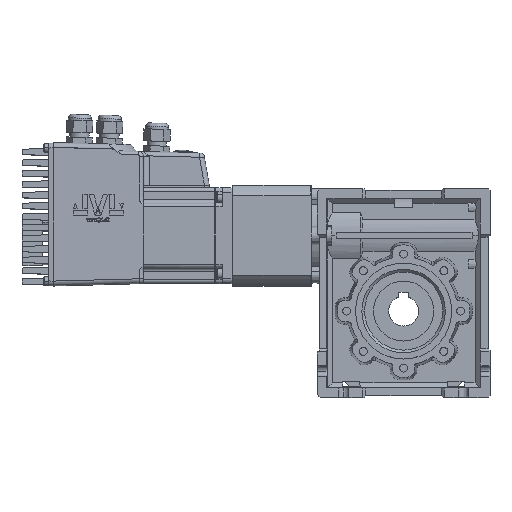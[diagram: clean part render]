
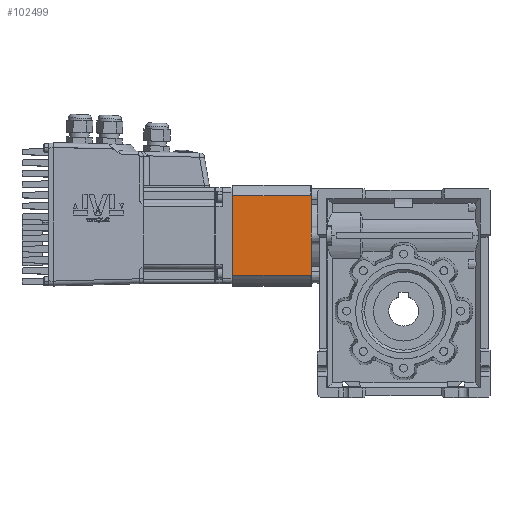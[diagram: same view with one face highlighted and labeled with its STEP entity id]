
A CAD part, top view. The second image highlights one B-rep face of the part: STEP entity #102499.
In plain terms, the highlighted planar face has unit normal (0, 0, 1) as drawn and (0, 0, -1) by its records, which use the part's own axes.
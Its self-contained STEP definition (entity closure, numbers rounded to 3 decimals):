
#597 = CARTESIAN_POINT ( 'NONE',  ( 70.668, 32.964, -40. ) ) ;
#2641 = ORIENTED_EDGE ( 'NONE', *, *, #86469, .T. ) ;
#4396 = CARTESIAN_POINT ( 'NONE',  ( 71., -32.438, -40. ) ) ;
#5314 = CARTESIAN_POINT ( 'NONE',  ( 5.5, 33.226, -40. ) ) ;
#6329 = LINE ( 'NONE', #59267, #105782 ) ;
#6951 = CARTESIAN_POINT ( 'NONE',  ( 0., 33.226, -40. ) ) ;
#9105 = VERTEX_POINT ( 'NONE', #56354 ) ;
#9636 = EDGE_CURVE ( 'NONE', #23852, #16066, #62215, .T. ) ;
#12507 = EDGE_LOOP ( 'NONE', ( #83493, #119701, #17711, #2641, #43714, #78346, #56721, #82443 ) ) ;
#13599 = VERTEX_POINT ( 'NONE', #13672 ) ;
#13672 = CARTESIAN_POINT ( 'NONE',  ( 70.5, -33.226, -40. ) ) ;
#16066 = VERTEX_POINT ( 'NONE', #5314 ) ;
#16264 = AXIS2_PLACEMENT_3D ( 'NONE', #101914, #122563, #61237 ) ;
#17711 = ORIENTED_EDGE ( 'NONE', *, *, #23372, .T. ) ;
#20606 = EDGE_CURVE ( 'NONE', #115744, #13599, #75561, .T. ) ;
#23372 = EDGE_CURVE ( 'NONE', #13599, #93606, #29179, .T. ) ;
#23852 = VERTEX_POINT ( 'NONE', #119067 ) ;
#25804 = B_SPLINE_CURVE_WITH_KNOTS ( 'NONE', 3,
 ( #91392, #81097, #111912, #50608 ),
 .UNSPECIFIED., .F., .F.,
 ( 4, 4 ),
 ( 0., 0.001 ),
 .UNSPECIFIED. ) ;
#25837 = CARTESIAN_POINT ( 'NONE',  ( 70.834, -32.702, -40. ) ) ;
#27770 = CARTESIAN_POINT ( 'NONE',  ( 71., 32.438, -40. ) ) ;
#29179 = LINE ( 'NONE', #88334, #104513 ) ;
#31524 = CARTESIAN_POINT ( 'NONE',  ( 71., 32.438, -40. ) ) ;
#34230 = CARTESIAN_POINT ( 'NONE',  ( 5.166, 32.702, -40. ) ) ;
#43714 = ORIENTED_EDGE ( 'NONE', *, *, #49058, .T. ) ;
#46489 = CARTESIAN_POINT ( 'NONE',  ( 70.5, -33.226, -40. ) ) ;
#49058 = EDGE_CURVE ( 'NONE', #79255, #23852, #77727, .T. ) ;
#50608 = CARTESIAN_POINT ( 'NONE',  ( 5., -32.438, -40. ) ) ;
#53050 = LINE ( 'NONE', #6951, #77051 ) ;
#55328 = CARTESIAN_POINT ( 'NONE',  ( 5.5, 33.226, -40. ) ) ;
#56354 = CARTESIAN_POINT ( 'NONE',  ( 70.5, 33.226, -40. ) ) ;
#56721 = ORIENTED_EDGE ( 'NONE', *, *, #76098, .T. ) ;
#59267 = CARTESIAN_POINT ( 'NONE',  ( 71., 52., -40. ) ) ;
#61237 = DIRECTION ( 'NONE',  ( -1., 0., 0. ) ) ;
#62215 = B_SPLINE_CURVE_WITH_KNOTS ( 'NONE', 3,
 ( #116636, #34230, #95633, #55328 ),
 .UNSPECIFIED., .F., .F.,
 ( 4, 4 ),
 ( 0., 0.001 ),
 .UNSPECIFIED. ) ;
#75561 = B_SPLINE_CURVE_WITH_KNOTS ( 'NONE', 3,
 ( #76936, #25837, #107777, #46489 ),
 .UNSPECIFIED., .F., .F.,
 ( 4, 4 ),
 ( 0., 0.001 ),
 .UNSPECIFIED. ) ;
#75653 = VERTEX_POINT ( 'NONE', #27770 ) ;
#76098 = EDGE_CURVE ( 'NONE', #16066, #9105, #53050, .T. ) ;
#76915 = CARTESIAN_POINT ( 'NONE',  ( 5.5, -33.226, -40. ) ) ;
#76936 = CARTESIAN_POINT ( 'NONE',  ( 71., -32.438, -40. ) ) ;
#77051 = VECTOR ( 'NONE', #78755, 1000. ) ;
#77727 = LINE ( 'NONE', #119705, #132255 ) ;
#78346 = ORIENTED_EDGE ( 'NONE', *, *, #9636, .T. ) ;
#78755 = DIRECTION ( 'NONE',  ( 1., 0., 0. ) ) ;
#79255 = VERTEX_POINT ( 'NONE', #101484 ) ;
#81097 = CARTESIAN_POINT ( 'NONE',  ( 5.332, -32.964, -40. ) ) ;
#82443 = ORIENTED_EDGE ( 'NONE', *, *, #116634, .T. ) ;
#83493 = ORIENTED_EDGE ( 'NONE', *, *, #86146, .T. ) ;
#86146 = EDGE_CURVE ( 'NONE', #75653, #115744, #6329, .T. ) ;
#86469 = EDGE_CURVE ( 'NONE', #93606, #79255, #25804, .T. ) ;
#88334 = CARTESIAN_POINT ( 'NONE',  ( 0., -33.226, -40. ) ) ;
#88776 = DIRECTION ( 'NONE',  ( -1., 0., 0. ) ) ;
#91392 = CARTESIAN_POINT ( 'NONE',  ( 5.5, -33.226, -40. ) ) ;
#92968 = CARTESIAN_POINT ( 'NONE',  ( 70.834, 32.702, -40. ) ) ;
#93606 = VERTEX_POINT ( 'NONE', #76915 ) ;
#95633 = CARTESIAN_POINT ( 'NONE',  ( 5.332, 32.964, -40. ) ) ;
#101484 = CARTESIAN_POINT ( 'NONE',  ( 5., -32.438, -40. ) ) ;
#101914 = CARTESIAN_POINT ( 'NONE',  ( 0., -42., -40. ) ) ;
#102499 = ADVANCED_FACE ( 'NONE', ( #128200 ), #110870, .T. ) ;
#104513 = VECTOR ( 'NONE', #88776, 1000. ) ;
#105782 = VECTOR ( 'NONE', #130919, 1000. ) ;
#107777 = CARTESIAN_POINT ( 'NONE',  ( 70.668, -32.964, -40. ) ) ;
#108891 = DIRECTION ( 'NONE',  ( 0., 1., 0. ) ) ;
#110870 = PLANE ( 'NONE',  #16264 ) ;
#111912 = CARTESIAN_POINT ( 'NONE',  ( 5.166, -32.702, -40. ) ) ;
#113026 = CARTESIAN_POINT ( 'NONE',  ( 70.5, 33.226, -40. ) ) ;
#115744 = VERTEX_POINT ( 'NONE', #4396 ) ;
#116634 = EDGE_CURVE ( 'NONE', #9105, #75653, #120772, .T. ) ;
#116636 = CARTESIAN_POINT ( 'NONE',  ( 5., 32.438, -40. ) ) ;
#119067 = CARTESIAN_POINT ( 'NONE',  ( 5., 32.438, -40. ) ) ;
#119701 = ORIENTED_EDGE ( 'NONE', *, *, #20606, .T. ) ;
#119705 = CARTESIAN_POINT ( 'NONE',  ( 5., 31., -40. ) ) ;
#120772 = B_SPLINE_CURVE_WITH_KNOTS ( 'NONE', 3,
 ( #113026, #597, #92968, #31524 ),
 .UNSPECIFIED., .F., .F.,
 ( 4, 4 ),
 ( 0., 0.001 ),
 .UNSPECIFIED. ) ;
#122563 = DIRECTION ( 'NONE',  ( 0., 0., -1. ) ) ;
#128200 = FACE_OUTER_BOUND ( 'NONE', #12507, .T. ) ;
#130919 = DIRECTION ( 'NONE',  ( 0., -1., 0. ) ) ;
#132255 = VECTOR ( 'NONE', #108891, 1000. ) ;
